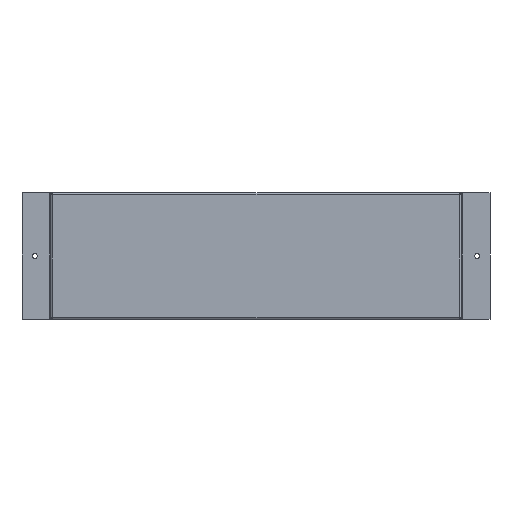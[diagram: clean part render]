
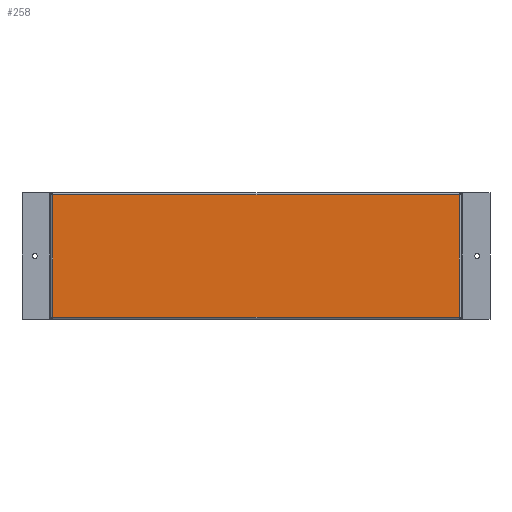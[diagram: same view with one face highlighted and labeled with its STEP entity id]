
A CAD part, top view. The second image highlights one B-rep face of the part: STEP entity #258.
In plain terms, the highlighted planar face has unit normal (0, 0, 1).
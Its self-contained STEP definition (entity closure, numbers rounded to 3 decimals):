
#112 = EDGE_CURVE ( 'NONE', #1120, #1119, #1811, .T. ) ;
#113 = EDGE_CURVE ( 'NONE', #1147, #1119, #1808, .T. ) ;
#114 = EDGE_CURVE ( 'NONE', #1120, #1121, #1805, .T. ) ;
#115 = EDGE_CURVE ( 'NONE', #1121, #1147, #1802, .T. ) ;
#258 = ADVANCED_FACE ( 'NONE', ( #469 ), #1353, .F. ) ;
#357 = VECTOR ( 'NONE', #1800, 1000. ) ;
#358 = VECTOR ( 'NONE', #1803, 1000. ) ;
#359 = VECTOR ( 'NONE', #1806, 1000. ) ;
#360 = VECTOR ( 'NONE', #1809, 1000. ) ;
#465 = AXIS2_PLACEMENT_3D ( 'NONE', #1352, #1351, #1350 ) ;
#469 = FACE_OUTER_BOUND ( 'NONE', #923, .T. ) ;
#776 = ORIENTED_EDGE ( 'NONE', *, *, #112, .F. ) ;
#778 = ORIENTED_EDGE ( 'NONE', *, *, #115, .T. ) ;
#779 = ORIENTED_EDGE ( 'NONE', *, *, #114, .T. ) ;
#780 = ORIENTED_EDGE ( 'NONE', *, *, #113, .T. ) ;
#923 = EDGE_LOOP ( 'NONE', ( #780, #776, #779, #778 ) ) ;
#1119 = VERTEX_POINT ( 'NONE', #1278 ) ;
#1120 = VERTEX_POINT ( 'NONE', #1277 ) ;
#1121 = VERTEX_POINT ( 'NONE', #1276 ) ;
#1147 = VERTEX_POINT ( 'NONE', #1250 ) ;
#1250 = CARTESIAN_POINT ( 'NONE',  ( 239.1, 72.1, 0. ) ) ;
#1276 = CARTESIAN_POINT ( 'NONE',  ( 239.1, -72.1, 0. ) ) ;
#1277 = CARTESIAN_POINT ( 'NONE',  ( -239.1, -72.1, 0. ) ) ;
#1278 = CARTESIAN_POINT ( 'NONE',  ( -239.1, 72.1, 0. ) ) ;
#1350 = DIRECTION ( 'NONE',  ( -1., 0., 0. ) ) ;
#1351 = DIRECTION ( 'NONE',  ( 0., 0., -1. ) ) ;
#1352 = CARTESIAN_POINT ( 'NONE',  ( -241.5, -74.5, 0. ) ) ;
#1353 = PLANE ( 'NONE',  #465 ) ;
#1800 = DIRECTION ( 'NONE',  ( 0., 1., 0. ) ) ;
#1801 = CARTESIAN_POINT ( 'NONE',  ( 239.1, -74.5, 0. ) ) ;
#1802 = LINE ( 'NONE', #1801, #357 ) ;
#1803 = DIRECTION ( 'NONE',  ( 1., 0., 0. ) ) ;
#1804 = CARTESIAN_POINT ( 'NONE',  ( -239.1, -72.1, 0. ) ) ;
#1805 = LINE ( 'NONE', #1804, #358 ) ;
#1806 = DIRECTION ( 'NONE',  ( -1., 0., 0. ) ) ;
#1807 = CARTESIAN_POINT ( 'NONE',  ( 239.1, 72.1, 0. ) ) ;
#1808 = LINE ( 'NONE', #1807, #359 ) ;
#1809 = DIRECTION ( 'NONE',  ( 0., 1., 0. ) ) ;
#1810 = CARTESIAN_POINT ( 'NONE',  ( -239.1, -74.5, 0. ) ) ;
#1811 = LINE ( 'NONE', #1810, #360 ) ;
